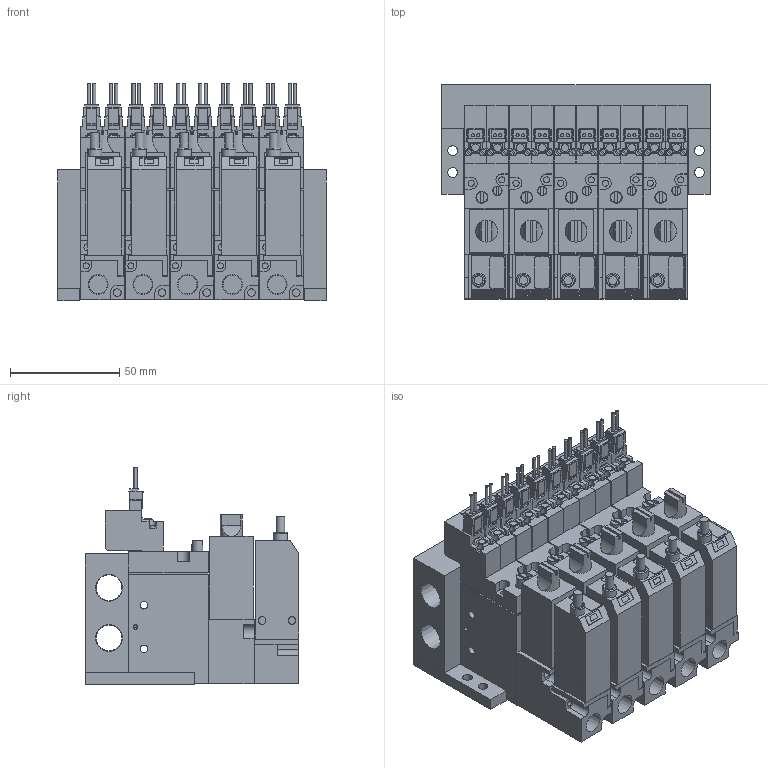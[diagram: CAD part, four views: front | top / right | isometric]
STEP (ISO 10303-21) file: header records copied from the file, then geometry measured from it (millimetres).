
FILE_DESCRIPTION(('STEP AP203'),'1');
FILE_NAME('BMPV32M2NAB25BL505.stp','2025-06-17T00:17:11',(' '),(' '),'Spatial InterOp 3D',' ',' ');
FILE_SCHEMA(('CONFIG_CONTROL_DESIGN'));
Length unit declared in the file: millimetre
Products named in the file (64): BMPV32M2NAB25BL505; Filter Assy; __; _____; MB BRACKET; MB05; Pressure sensor ABSL; ___ ___2; ___-2(Rc); ___; upper plate-A; ______; ____; VACUUM VALVE FUNCTION MPV42-A
Assembly tree (63 placements, depth 2):
  BMPV32M2NAB25BL505
    Filter Assy
    __
    _____
    Filter Assy
    __
    _____
    Filter Assy
    __
    _____
    Filter Assy
    __
    _____
    MB BRACKET
    MB BRACKET
    MB05
    Filter Assy
    __
    _____
    Pressure sensor ABSL
    ___ ___2
    ___-2(Rc)
    ___-2(Rc)
    ___ ___2
    Pressure sensor ABSL
    ___-2(Rc)
    ___ ___2
    Pressure sensor ABSL
    ___-2(Rc)
    ___ ___2
    Pressure sensor ABSL
    ___-2(Rc)
    ___ ___2
    Pressure sensor ABSL
    ___
    upper plate-A
    ______
    ____
    VACUUM VALVE FUNCTION MPV42-A
    VACUUM VALVE FUNCTION MPV42-A
    ___
    upper plate-A
    ______
    ____
    VACUUM VALVE FUNCTION MPV42-A
    VACUUM VALVE FUNCTION MPV42-A
    ___
    upper plate-A
    ______
    ____
    VACUUM VALVE FUNCTION MPV42-A
    VACUUM VALVE FUNCTION MPV42-A
    ___
    upper plate-A
    ______
    ____
    VACUUM VALVE FUNCTION MPV42-A
    VACUUM VALVE FUNCTION MPV42-A
    ___
    upper plate-A
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Bounding box: 123 x 98 x 99.75 mm (x, y, z)
Volume: 599614.2 mm3; surface area: 198386.3 mm2
Topology: 63 solids, 63 shells, 1887 faces, 4900 edges, 3259 vertices
Faces by surface type: plane 1511, cylinder 333, cone 38, torus 5
Full cylindrical faces by diameter (mm): 1.4 x20, 1.8 x10, 2 x10, 2.5 x14, 2.8 x20, 3 x20, 3.5 x64, 4 x10, 4.2 x5, 4.5 x4, 5 x5, 5.5 x5, 6.5 x11, 8.522 x5, 11.776 x2
Entity records: 59100 total; most frequent: CARTESIAN_POINT 10068, DIRECTION 9290, ORIENTED_EDGE 9106, EDGE_CURVE 4553, LINE 3678, VECTOR 3678, VERTEX_POINT 3194, AXIS2_PLACEMENT_3D 2806
